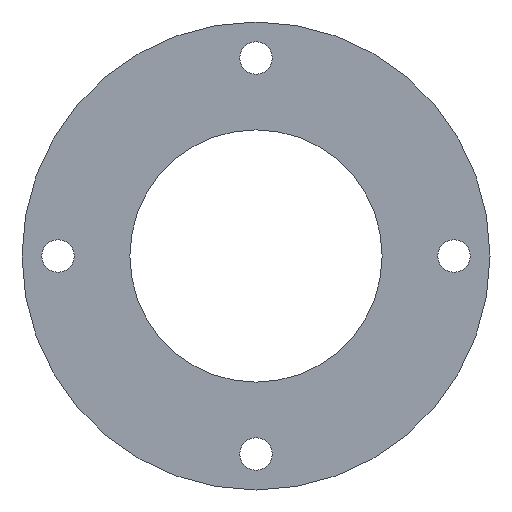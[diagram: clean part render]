
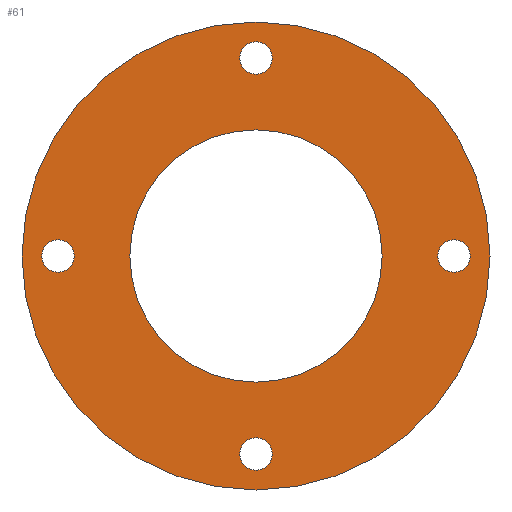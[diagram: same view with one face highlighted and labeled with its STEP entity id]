
A CAD part, front view. The second image highlights one B-rep face of the part: STEP entity #61.
In plain terms, the highlighted planar face has unit normal (0, -1, 0).
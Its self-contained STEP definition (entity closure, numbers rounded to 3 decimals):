
#3 = EDGE_CURVE ( 'NONE', #127, #343, #191, .T. ) ;
#5 = DIRECTION ( 'NONE',  ( 0., 0., -1. ) ) ;
#6 = CARTESIAN_POINT ( 'NONE',  ( 0., 0., 55. ) ) ;
#27 = EDGE_CURVE ( 'NONE', #664, #194, #724, .T. ) ;
#36 = ORIENTED_EDGE ( 'NONE', *, *, #118, .T. ) ;
#45 = DIRECTION ( 'NONE',  ( 0., 1., 0. ) ) ;
#46 = VERTEX_POINT ( 'NONE', #154 ) ;
#50 = ORIENTED_EDGE ( 'NONE', *, *, #684, .F. ) ;
#55 = CARTESIAN_POINT ( 'NONE',  ( 55., 0., -4.5 ) ) ;
#56 = EDGE_CURVE ( 'NONE', #513, #46, #372, .T. ) ;
#57 = ORIENTED_EDGE ( 'NONE', *, *, #336, .F. ) ;
#60 = DIRECTION ( 'NONE',  ( 0., 1., 0. ) ) ;
#61 = ADVANCED_FACE ( 'NONE', ( #172, #525, #663, #269, #237, #511 ), #734, .F. ) ;
#63 = DIRECTION ( 'NONE',  ( 0., 1., 0. ) ) ;
#71 = CIRCLE ( 'NONE', #447, 4.5 ) ;
#73 = EDGE_LOOP ( 'NONE', ( #57, #50 ) ) ;
#74 = AXIS2_PLACEMENT_3D ( 'NONE', #146, #467, #659 ) ;
#75 = DIRECTION ( 'NONE',  ( 0., 1., 0. ) ) ;
#87 = DIRECTION ( 'NONE',  ( 0., 1., 0. ) ) ;
#99 = AXIS2_PLACEMENT_3D ( 'NONE', #449, #87, #504 ) ;
#106 = DIRECTION ( 'NONE',  ( 0., 0., 1. ) ) ;
#118 = EDGE_CURVE ( 'NONE', #715, #669, #71, .T. ) ;
#119 = CIRCLE ( 'NONE', #74, 4.5 ) ;
#123 = CARTESIAN_POINT ( 'NONE',  ( -55., 0., 0. ) ) ;
#126 = ORIENTED_EDGE ( 'NONE', *, *, #56, .T. ) ;
#127 = VERTEX_POINT ( 'NONE', #412 ) ;
#136 = CARTESIAN_POINT ( 'NONE',  ( 0., 0., 35.05 ) ) ;
#145 = ORIENTED_EDGE ( 'NONE', *, *, #276, .T. ) ;
#146 = CARTESIAN_POINT ( 'NONE',  ( 0., 0., -55. ) ) ;
#154 = CARTESIAN_POINT ( 'NONE',  ( 0., 0., 59.5 ) ) ;
#157 = AXIS2_PLACEMENT_3D ( 'NONE', #383, #268, #379 ) ;
#164 = AXIS2_PLACEMENT_3D ( 'NONE', #123, #60, #533 ) ;
#171 = CIRCLE ( 'NONE', #157, 4.5 ) ;
#172 = FACE_BOUND ( 'NONE', #330, .T. ) ;
#190 = DIRECTION ( 'NONE',  ( 0., 0., 1. ) ) ;
#191 = CIRCLE ( 'NONE', #227, 65. ) ;
#192 = EDGE_LOOP ( 'NONE', ( #600, #385 ) ) ;
#194 = VERTEX_POINT ( 'NONE', #55 ) ;
#215 = DIRECTION ( 'NONE',  ( 0., 1., 0. ) ) ;
#226 = EDGE_LOOP ( 'NONE', ( #737, #517 ) ) ;
#227 = AXIS2_PLACEMENT_3D ( 'NONE', #320, #376, #675 ) ;
#229 = CIRCLE ( 'NONE', #418, 4.5 ) ;
#232 = EDGE_CURVE ( 'NONE', #46, #513, #556, .T. ) ;
#237 = FACE_BOUND ( 'NONE', #73, .T. ) ;
#251 = CARTESIAN_POINT ( 'NONE',  ( 0., 0., 0. ) ) ;
#264 = DIRECTION ( 'NONE',  ( 0., -1., 0. ) ) ;
#266 = AXIS2_PLACEMENT_3D ( 'NONE', #251, #364, #5 ) ;
#268 = DIRECTION ( 'NONE',  ( 0., 1., 0. ) ) ;
#269 = FACE_BOUND ( 'NONE', #226, .T. ) ;
#271 = DIRECTION ( 'NONE',  ( 0., 0., 1. ) ) ;
#276 = EDGE_CURVE ( 'NONE', #669, #715, #119, .T. ) ;
#291 = AXIS2_PLACEMENT_3D ( 'NONE', #560, #391, #271 ) ;
#296 = EDGE_CURVE ( 'NONE', #493, #368, #229, .T. ) ;
#314 = CARTESIAN_POINT ( 'NONE',  ( 0., 0., 0. ) ) ;
#320 = CARTESIAN_POINT ( 'NONE',  ( 0., 0., 0. ) ) ;
#330 = EDGE_LOOP ( 'NONE', ( #145, #36 ) ) ;
#333 = CARTESIAN_POINT ( 'NONE',  ( 0., 0., 0. ) ) ;
#336 = EDGE_CURVE ( 'NONE', #465, #686, #759, .T. ) ;
#343 = VERTEX_POINT ( 'NONE', #652 ) ;
#360 = CARTESIAN_POINT ( 'NONE',  ( 0., 0., -59.5 ) ) ;
#364 = DIRECTION ( 'NONE',  ( 0., -1., 0. ) ) ;
#367 = ORIENTED_EDGE ( 'NONE', *, *, #487, .T. ) ;
#368 = VERTEX_POINT ( 'NONE', #482 ) ;
#371 = DIRECTION ( 'NONE',  ( 0., -1., 0. ) ) ;
#372 = CIRCLE ( 'NONE', #606, 4.5 ) ;
#375 = DIRECTION ( 'NONE',  ( 0., 0., -1. ) ) ;
#376 = DIRECTION ( 'NONE',  ( 0., -1., 0. ) ) ;
#377 = ORIENTED_EDGE ( 'NONE', *, *, #3, .T. ) ;
#379 = DIRECTION ( 'NONE',  ( 0., 0., 1. ) ) ;
#383 = CARTESIAN_POINT ( 'NONE',  ( 55., 0., 0. ) ) ;
#385 = ORIENTED_EDGE ( 'NONE', *, *, #296, .T. ) ;
#387 = CARTESIAN_POINT ( 'NONE',  ( 0., 0., -35.05 ) ) ;
#391 = DIRECTION ( 'NONE',  ( 0., 1., 0. ) ) ;
#412 = CARTESIAN_POINT ( 'NONE',  ( 0., 0., 65. ) ) ;
#418 = AXIS2_PLACEMENT_3D ( 'NONE', #721, #75, #190 ) ;
#447 = AXIS2_PLACEMENT_3D ( 'NONE', #526, #45, #106 ) ;
#449 = CARTESIAN_POINT ( 'NONE',  ( 55., 0., 0. ) ) ;
#465 = VERTEX_POINT ( 'NONE', #387 ) ;
#467 = DIRECTION ( 'NONE',  ( 0., 1., 0. ) ) ;
#482 = CARTESIAN_POINT ( 'NONE',  ( -55., 0., 4.5 ) ) ;
#487 = EDGE_CURVE ( 'NONE', #343, #127, #731, .T. ) ;
#490 = CARTESIAN_POINT ( 'NONE',  ( 55., 0., 4.5 ) ) ;
#493 = VERTEX_POINT ( 'NONE', #503 ) ;
#503 = CARTESIAN_POINT ( 'NONE',  ( -55., 0., -4.5 ) ) ;
#504 = DIRECTION ( 'NONE',  ( 0., 0., 1. ) ) ;
#511 = FACE_OUTER_BOUND ( 'NONE', #567, .T. ) ;
#513 = VERTEX_POINT ( 'NONE', #667 ) ;
#516 = EDGE_CURVE ( 'NONE', #194, #664, #171, .T. ) ;
#517 = ORIENTED_EDGE ( 'NONE', *, *, #516, .T. ) ;
#525 = FACE_BOUND ( 'NONE', #192, .T. ) ;
#526 = CARTESIAN_POINT ( 'NONE',  ( 0., 0., -55. ) ) ;
#533 = DIRECTION ( 'NONE',  ( 0., 0., 1. ) ) ;
#544 = DIRECTION ( 'NONE',  ( 0., 0., 1. ) ) ;
#550 = CIRCLE ( 'NONE', #164, 4.5 ) ;
#554 = DIRECTION ( 'NONE',  ( 0., 0., 1. ) ) ;
#556 = CIRCLE ( 'NONE', #694, 4.5 ) ;
#560 = CARTESIAN_POINT ( 'NONE',  ( 0., 0., 65. ) ) ;
#564 = CARTESIAN_POINT ( 'NONE',  ( 0., 0., 55. ) ) ;
#567 = EDGE_LOOP ( 'NONE', ( #367, #377 ) ) ;
#600 = ORIENTED_EDGE ( 'NONE', *, *, #689, .T. ) ;
#606 = AXIS2_PLACEMENT_3D ( 'NONE', #564, #215, #554 ) ;
#610 = DIRECTION ( 'NONE',  ( 0., 0., -1. ) ) ;
#636 = AXIS2_PLACEMENT_3D ( 'NONE', #314, #371, #610 ) ;
#637 = EDGE_LOOP ( 'NONE', ( #682, #126 ) ) ;
#652 = CARTESIAN_POINT ( 'NONE',  ( 0., 0., -65. ) ) ;
#653 = CARTESIAN_POINT ( 'NONE',  ( 0., 0., -50.5 ) ) ;
#659 = DIRECTION ( 'NONE',  ( 0., 0., 1. ) ) ;
#663 = FACE_BOUND ( 'NONE', #637, .T. ) ;
#664 = VERTEX_POINT ( 'NONE', #490 ) ;
#667 = CARTESIAN_POINT ( 'NONE',  ( 0., 0., 50.5 ) ) ;
#669 = VERTEX_POINT ( 'NONE', #653 ) ;
#675 = DIRECTION ( 'NONE',  ( 0., 0., -1. ) ) ;
#682 = ORIENTED_EDGE ( 'NONE', *, *, #232, .T. ) ;
#684 = EDGE_CURVE ( 'NONE', #686, #465, #764, .T. ) ;
#686 = VERTEX_POINT ( 'NONE', #136 ) ;
#689 = EDGE_CURVE ( 'NONE', #368, #493, #550, .T. ) ;
#694 = AXIS2_PLACEMENT_3D ( 'NONE', #6, #63, #544 ) ;
#715 = VERTEX_POINT ( 'NONE', #360 ) ;
#721 = CARTESIAN_POINT ( 'NONE',  ( -55., 0., 0. ) ) ;
#724 = CIRCLE ( 'NONE', #99, 4.5 ) ;
#726 = AXIS2_PLACEMENT_3D ( 'NONE', #333, #264, #375 ) ;
#731 = CIRCLE ( 'NONE', #726, 65. ) ;
#734 = PLANE ( 'NONE',  #291 ) ;
#737 = ORIENTED_EDGE ( 'NONE', *, *, #27, .T. ) ;
#759 = CIRCLE ( 'NONE', #636, 35.05 ) ;
#764 = CIRCLE ( 'NONE', #266, 35.05 ) ;
